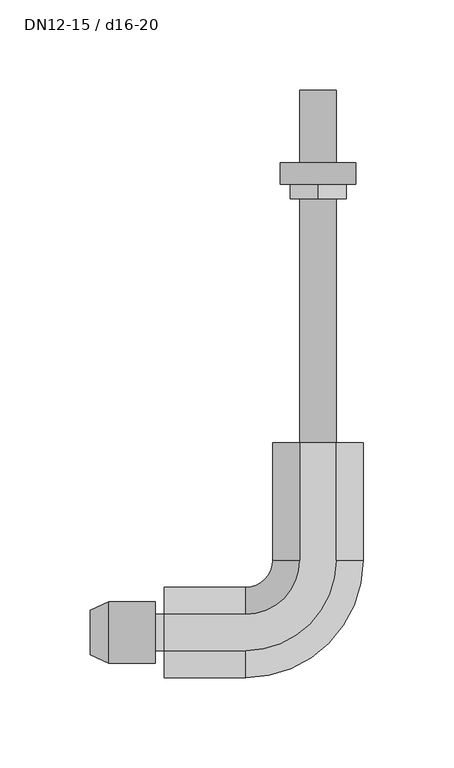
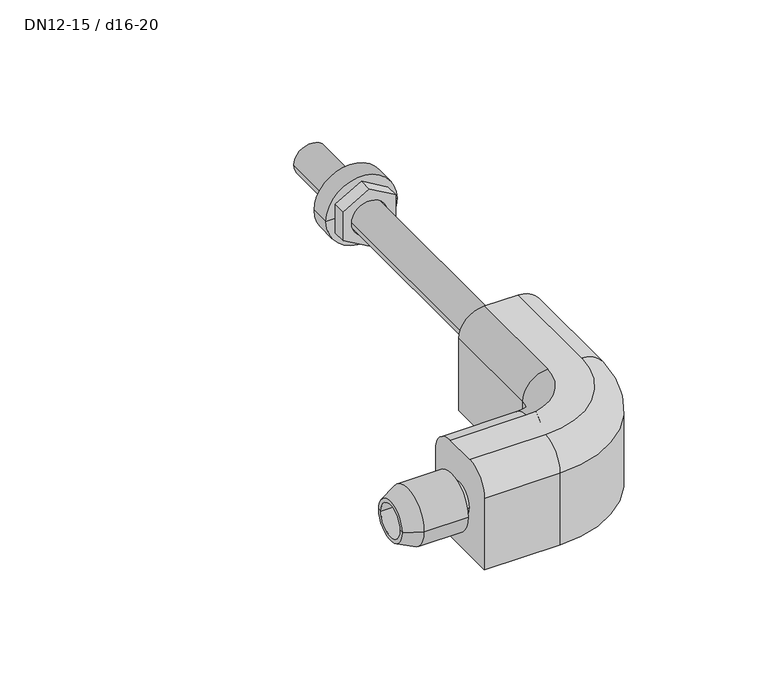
"""IFC4 building model written with IfcOpenShell, lengths in millimetres: pipe fitting geometry, NLRS_50_PIF_UN_PushFit radiatoraansluiting 90° met isolatiebox en schroefaansluiting voor Euroconus_geb : DN12-15 / d16-20."""

from ifc_helpers import new_model, si_unit, point, frame, origin, origin_2d, place, context, project, spatial, polyline, circle_curve, ellipse_curve, trimmed, segment, composite_curve, outline, extrude, source, transform, mapped, element, save
from ifc_brep_helpers import plane_surface, cylinder_surface, revolved_surface, advanced_brep


def dn12_15_d16_20_6858ad53(model_context):
    return source(origin(), model_context, "Body", "SolidModel", [
        advanced_brep(
        [(-90.0, -17.0, 0.0), (-90.0, 17.0, 0.0), (-90.0, 0.0, 0.0), (-115.8135921, -17.0, 0.0), (-115.8135921, 17.0, 0.0), (-126.0, -12.25, 0.0), (-126.0, 12.25, 0.0), (-100.0, -10.0, 0.0), (-100.0, 10.0, 0.0), (-126.0, 10.0, 0.0), (-126.0, -10.0, 0.0), (-100.0, 0.0, 0.0)],
        [
            (0, 1, circle_curve(frame((-90.0, 0.0, 0.0), z_axis=(1.0, 0.0, 0.0), x_axis=(0.0, 1.0, 0.0)), 17.0)),
            (1, 2),
            (2, 0),
            (1, 0, circle_curve(frame((-90.0, 0.0, 0.0), z_axis=(1.0, 0.0, 0.0), x_axis=(0.0, 1.0, 0.0)), 17.0)),
            (3, 4, circle_curve(frame((-115.8135921, 0.0, 0.0), z_axis=(1.0, 0.0, 0.0), x_axis=(0.0, 1.0, 0.0)), 17.0)),
            (4, 1),
            (0, 3),
            (4, 3, circle_curve(frame((-115.8135921, 0.0, 0.0), z_axis=(1.0, 0.0, 0.0), x_axis=(0.0, 1.0, 0.0)), 17.0)),
            (5, 6, circle_curve(frame((-126.0, 0.0, 0.0), z_axis=(1.0, 0.0, 0.0), x_axis=(0.0, 1.0, 0.0)), 12.25)),
            (6, 4),
            (3, 5),
            (6, 5, circle_curve(frame((-126.0, 0.0, 0.0), z_axis=(1.0, 0.0, 0.0), x_axis=(0.0, 1.0, 0.0)), 12.25)),
            (7, 8, circle_curve(frame((-100.0, 0.0, 0.0), z_axis=(1.0, 0.0, 0.0), x_axis=(0.0, 1.0, 0.0)), 10.0)),
            (8, 9),
            (9, 10, circle_curve(frame((-126.0, 0.0, 0.0), z_axis=(-1.0, 0.0, 0.0), x_axis=(0.0, 1.0, 0.0)), 10.0)),
            (10, 7),
            (8, 7, circle_curve(frame((-100.0, 0.0, 0.0), z_axis=(1.0, 0.0, 0.0), x_axis=(0.0, 1.0, 0.0)), 10.0)),
            (10, 9, circle_curve(frame((-126.0, 0.0, 0.0), z_axis=(-1.0, 0.0, 0.0), x_axis=(0.0, 1.0, 0.0)), 10.0)),
            (11, 8),
            (7, 11),
            (9, 6),
            (5, 10),
        ],
        [
            plane_surface(frame((-90.0, 0.0, 0.0), z_axis=(1.0, 0.0, 0.0), x_axis=(0.0, 1.0, 0.0))),
            cylinder_surface(frame((-136.0, 0.0, 0.0), z_axis=(-1.0, 0.0, 0.0), x_axis=(0.0, 1.0, 0.0)), 17.0),
            revolved_surface(polyline([(-115.8135921, 17.0, 0.0), (-126.0, 12.25, 0.0)]), (-136.0, 0.0, 0.0), (-1.0, 0.0, 0.0)),
            revolved_surface(polyline([(-126.0, 10.0, 0.0), (-100.0, 10.0, 0.0)]), (-136.0, 0.0, 0.0), (-1.0, 0.0, 0.0)),
            plane_surface(frame((-100.0, 0.0, 0.0), z_axis=(-1.0, 0.0, 0.0), x_axis=(0.0, 1.0, 0.0))),
            plane_surface(frame((-126.0, 0.0, 0.0), z_axis=(-1.0, 0.0, 0.0), x_axis=(0.0, 1.0, 0.0))),
        ],
        [
            (0, [[1, 2, 3]]),
            (0, [[4, -3, -2]]),
            (1, [[5, 6, -1, 7]]),
            (1, [[8, -7, -4, -6]]),
            (2, [[9, 10, -5, 11]]),
            (2, [[12, -11, -8, -10]]),
            (3, [[13, 14, 15, 16]]),
            (3, [[17, -16, 18, -14]]),
            (4, [[19, -13, 20]]),
            (4, [[-20, -17, -19]]),
            (5, [[-15, 21, -9, 22]]),
            (5, [[-18, -22, -12, -21]]),
        ],
    ),
        extrude(outline(polyline([(-8.9489292, -15.5), (-17.8978583, 0.0), (-8.9489292, 15.5), (8.9489292, 15.5), (17.8978583, 0.0), (8.9489292, -15.5), (-8.9489292, -15.5)]), holes=[composite_curve([segment(trimmed(circle_curve(origin_2d(), 10.5), [point((0.0, -10.5))], [point((0.0, 10.5))], True, "CARTESIAN"), True, "CONTINUOUS"), segment(trimmed(circle_curve(origin_2d(), 10.5), [point((0.0, 10.5))], [point((0.0, -10.5))], True, "CARTESIAN"), True, "CONTINUOUS")], self_intersect=False)]), frame((0.0, 240.0, 0.0), z_axis=(0.0, 1.0, 0.0), x_axis=(0.0, 0.0, 1.0)), (0.0, 0.0, 1.0), 8.0),
        advanced_brep(
        [(-21.0, 248.0, 0.0), (21.0, 248.0, 0.0), (10.5, 248.0, 0.0), (-10.5, 248.0, 0.0), (-21.0, 260.0, 0.0), (21.0, 260.0, 0.0), (-10.5, 260.0, 0.0), (10.5, 260.0, 0.0)],
        [
            (0, 1, circle_curve(frame((0.0, 248.0, 0.0), z_axis=(0.0, -1.0, 0.0), x_axis=(1.0, 0.0, 0.0)), 21.0)),
            (1, 2),
            (2, 3, circle_curve(frame((0.0, 248.0, 0.0), z_axis=(0.0, 1.0, 0.0), x_axis=(-1.0, 0.0, 0.0)), 10.5)),
            (3, 0),
            (1, 0, circle_curve(frame((0.0, 248.0, 0.0), z_axis=(0.0, -1.0, 0.0), x_axis=(1.0, 0.0, 0.0)), 21.0)),
            (3, 2, circle_curve(frame((0.0, 248.0, 0.0), z_axis=(0.0, 1.0, 0.0), x_axis=(-1.0, 0.0, 0.0)), 10.5)),
            (0, 4),
            (4, 5, circle_curve(frame((0.0, 260.0, 0.0), z_axis=(0.0, -1.0, 0.0), x_axis=(1.0, 0.0, 0.0)), 21.0)),
            (5, 1),
            (5, 4, circle_curve(frame((0.0, 260.0, 0.0), z_axis=(0.0, -1.0, 0.0), x_axis=(1.0, 0.0, 0.0)), 21.0)),
            (4, 6),
            (6, 7, circle_curve(frame((0.0, 260.0, 0.0), z_axis=(0.0, -1.0, 0.0), x_axis=(-1.0, 0.0, 0.0)), 10.5)),
            (7, 5),
            (7, 6, circle_curve(frame((0.0, 260.0, 0.0), z_axis=(0.0, -1.0, 0.0), x_axis=(-1.0, 0.0, 0.0)), 10.5)),
            (6, 3),
            (2, 7),
        ],
        [
            plane_surface(frame((0.0, 248.0, 0.0), z_axis=(0.0, -1.0, 0.0), x_axis=(1.0, 0.0, 0.0))),
            cylinder_surface(frame((0.0, -1752.0, 0.0), z_axis=(0.0, 1.0, 0.0), x_axis=(1.0, 0.0, 0.0)), 21.0),
            plane_surface(frame((0.0, 260.0, 0.0), z_axis=(0.0, 1.0, 0.0), x_axis=(1.0, 0.0, 0.0))),
            revolved_surface(polyline([(-10.5, 260.0, 0.0), (-10.5, 248.0, 0.0)]), (0.0, 248.0, 0.0), (0.0, 1.0, 0.0)),
        ],
        [
            (0, [[1, 2, 3, 4]]),
            (0, [[5, -4, 6, -2]]),
            (1, [[-1, 7, 8, 9]]),
            (1, [[-5, -9, 10, -7]]),
            (2, [[-8, 11, 12, 13]]),
            (2, [[-10, -13, 14, -11]]),
            (3, [[15, -3, 16, -12]]),
            (3, [[-15, -14, -16, -6]]),
        ],
    ),
        advanced_brep(
        [(10.0, 105.0, 30.0), (25.0, 105.0, 15.0), (25.0, 105.0, -30.0), (-25.0, 105.0, -30.0), (-25.0, 105.0, 15.0), (-10.0, 105.0, 30.0), (10.0, 40.0, 30.0), (25.0, 40.0, 15.0), (25.0, 40.0, -30.0), (-40.0, -25.0, -30.0), (-85.0, -25.0, -30.0), (-85.0, 25.0, -30.0), (-40.0, 25.0, -30.0), (-25.0, 40.0, -30.0), (-25.0, 40.0, 15.0), (-10.0, 40.0, 30.0), (-40.0, 10.0, 30.0), (-85.0, 10.0, 30.0), (-85.0, -10.0, 30.0), (-40.0, -10.0, 30.0), (-40.0, -25.0, 15.0), (-40.0, 25.0, 15.0), (-85.0, 25.0, 15.0), (-85.0, -25.0, 15.0)],
        [
            (0, 1, circle_curve(frame((10.0, 105.0, 15.0), z_axis=(0.0, 1.0, 0.0), x_axis=(1.0, 0.0, 0.0)), 15.0)),
            (1, 2),
            (2, 3),
            (3, 4),
            (4, 5, circle_curve(frame((-10.0, 105.0, 15.0), z_axis=(0.0, 1.0, 0.0), x_axis=(1.0, 0.0, 0.0)), 15.0)),
            (5, 0),
            (0, 6),
            (6, 7, circle_curve(frame((10.0, 40.0, 15.0), z_axis=(0.0, 1.0, 0.0), x_axis=(1.0, 0.0, 0.0)), 15.0)),
            (7, 1),
            (7, 8),
            (8, 2),
            (8, 9, circle_curve(frame((-40.0, 40.0, -30.0), z_axis=(0.0, 0.0, -1.0), x_axis=(1.0, 0.0, 0.0)), 65.0)),
            (9, 10),
            (10, 11),
            (11, 12),
            (12, 13, circle_curve(frame((-40.0, 40.0, -30.0), z_axis=(0.0, 0.0, 1.0), x_axis=(1.0, 0.0, 0.0)), 15.0)),
            (13, 3),
            (13, 14),
            (14, 4),
            (14, 15, circle_curve(frame((-10.0, 40.0, 15.0), z_axis=(0.0, 1.0, 0.0), x_axis=(1.0, 0.0, 0.0)), 15.0)),
            (15, 5),
            (15, 16, circle_curve(frame((-40.0, 40.0, 30.0), z_axis=(0.0, 0.0, -1.0), x_axis=(1.0, 0.0, 0.0)), 30.0)),
            (16, 17),
            (17, 18),
            (18, 19),
            (19, 6, circle_curve(frame((-40.0, 40.0, 30.0), z_axis=(0.0, 0.0, 1.0), x_axis=(1.0, 0.0, 0.0)), 50.0)),
            (20, 7, circle_curve(frame((-40.0, 40.0, 15.0), z_axis=(0.0, 0.0, 1.0), x_axis=(1.0, 0.0, 0.0)), 65.0)),
            (19, 20, circle_curve(frame((-40.0, -10.0, 15.0), z_axis=(1.0, 0.0, 0.0), x_axis=(0.0, -1.0, 0.0)), 15.0)),
            (20, 9),
            (21, 14, circle_curve(frame((-40.0, 40.0, 15.0), z_axis=(0.0, 0.0, 1.0), x_axis=(1.0, 0.0, 0.0)), 15.0)),
            (12, 21),
            (21, 16, circle_curve(frame((-40.0, 10.0, 15.0), z_axis=(1.0, 0.0, 0.0), x_axis=(0.0, -1.0, 0.0)), 15.0)),
            (17, 22, circle_curve(frame((-85.0, 10.0, 15.0), z_axis=(-1.0, 0.0, 0.0), x_axis=(0.0, -1.0, 0.0)), 15.0)),
            (22, 11),
            (10, 23),
            (23, 18, circle_curve(frame((-85.0, -10.0, 15.0), z_axis=(-1.0, 0.0, 0.0), x_axis=(0.0, -1.0, 0.0)), 15.0)),
            (23, 20),
            (22, 21),
        ],
        [
            plane_surface(frame((0.0, 105.0, 0.0), z_axis=(0.0, 1.0, 0.0), x_axis=(0.0, 0.0, 1.0))),
            cylinder_surface(frame((10.0, 105.0, 15.0), z_axis=(0.0, 1.0, 0.0), x_axis=(1.0, 0.0, 0.0)), 15.0),
            plane_surface(frame((25.0, 105.0, 15.0), z_axis=(1.0, 0.0, 0.0), x_axis=(0.0, -1.0, 0.0))),
            plane_surface(frame((25.0, 105.0, -30.0), z_axis=(0.0, 0.0, -1.0), x_axis=(0.0, -1.0, 0.0))),
            plane_surface(frame((-25.0, 105.0, -30.0), z_axis=(-1.0, 0.0, 0.0), x_axis=(0.0, -1.0, 0.0))),
            cylinder_surface(frame((-10.0, 105.0, 15.0), z_axis=(0.0, 1.0, 0.0), x_axis=(1.0, 0.0, 0.0)), 15.0),
            plane_surface(frame((-10.0, 105.0, 30.0), z_axis=(0.0, 0.0, 1.0), x_axis=(0.0, -1.0, 0.0))),
            revolved_surface(trimmed(ellipse_curve(frame((10.0, 40.0, 15.0), z_axis=(0.0, 1.0, 0.0), x_axis=(1.0, 0.0, 0.0)), 15.0, 15.0), [point((10.0, 40.0, 30.0))], [point((25.0, 40.0, 15.0))], True, "CARTESIAN"), (-40.0, 40.0, 0.0), (0.0, 0.0, -1.0)),
            cylinder_surface(frame((-40.0, 40.0, 0.0), z_axis=(0.0, 0.0, -1.0), x_axis=(1.0, 0.0, 0.0)), 65.0),
            revolved_surface(polyline([(-25.0, 40.0, -30.0), (-25.0, 40.0, 15.0)]), (-40.0, 40.0, 0.0), (0.0, 0.0, -1.0)),
            revolved_surface(trimmed(ellipse_curve(frame((-10.0, 40.0, 15.0), z_axis=(0.0, 1.0, 0.0), x_axis=(1.0, 0.0, 0.0)), 15.0, 15.0), [point((-25.0, 40.0, 15.0))], [point((-10.0, 40.0, 30.0))], True, "CARTESIAN"), (-40.0, 40.0, 0.0), (0.0, 0.0, -1.0)),
            plane_surface(frame((-85.0, 0.0, 0.0), z_axis=(-1.0, 0.0, 0.0), x_axis=(0.0, 0.0, 1.0))),
            cylinder_surface(frame((-40.0, -10.0, 15.0), z_axis=(1.0, 0.0, 0.0), x_axis=(0.0, -1.0, 0.0)), 15.0),
            plane_surface(frame((-40.0, -25.0, 15.0), z_axis=(0.0, -1.0, 0.0), x_axis=(-1.0, 0.0, 0.0))),
            plane_surface(frame((-40.0, 25.0, -30.0), z_axis=(0.0, 1.0, 0.0), x_axis=(-1.0, 0.0, 0.0))),
            cylinder_surface(frame((-40.0, 10.0, 15.0), z_axis=(1.0, 0.0, 0.0), x_axis=(0.0, -1.0, 0.0)), 15.0),
        ],
        [
            (0, [[1, 2, 3, 4, 5, 6]]),
            (1, [[-1, 7, 8, 9]]),
            (2, [[-2, -9, 10, 11]]),
            (3, [[-3, -11, 12, 13, 14, 15, 16, 17]]),
            (4, [[-4, -17, 18, 19]]),
            (5, [[-5, -19, 20, 21]]),
            (6, [[-6, -21, 22, 23, 24, 25, 26, -7]]),
            (7, [[27, -8, -26, 28]]),
            (8, [[-12, -10, -27, 29]]),
            (9, [[30, -18, -16, 31]]),
            (10, [[-22, -20, -30, 32]]),
            (11, [[-24, 33, 34, -14, 35, 36]]),
            (12, [[-28, -25, -36, 37]]),
            (13, [[-29, -37, -35, -13]]),
            (14, [[-31, -15, -34, 38]]),
            (15, [[-32, -38, -33, -23]]),
        ],
    ),
        advanced_brep(
        [(-10.0, 300.0, 0.0), (10.0, 300.0, 0.0), (-10.0, 61.5, 0.0), (10.0, 61.5, 0.0), (-61.5, -10.0, 0.0), (-61.5, 10.0, 0.0), (-90.0, 10.0, 0.0), (-90.0, -10.0, 0.0)],
        [
            (0, 1, circle_curve(frame((0.0, 300.0, 0.0), z_axis=(0.0, 1.0, 0.0), x_axis=(1.0, 0.0, 0.0)), 10.0)),
            (1, 0, circle_curve(frame((0.0, 300.0, 0.0), z_axis=(0.0, 1.0, 0.0), x_axis=(1.0, 0.0, 0.0)), 10.0)),
            (0, 2),
            (2, 3, circle_curve(frame((0.0, 61.5, 0.0), z_axis=(0.0, 1.0, 0.0), x_axis=(1.0, 0.0, 0.0)), 10.0)),
            (3, 1),
            (3, 2, circle_curve(frame((0.0, 61.5, 0.0), z_axis=(0.0, 1.0, 0.0), x_axis=(1.0, 0.0, 0.0)), 10.0)),
            (4, 3, circle_curve(frame((-61.5, 61.5, 0.0), z_axis=(0.0, 0.0, 1.0), x_axis=(1.0, 0.0, 0.0)), 71.5)),
            (2, 5, circle_curve(frame((-61.5, 61.5, 0.0), z_axis=(0.0, 0.0, -1.0), x_axis=(1.0, 0.0, 0.0)), 51.5)),
            (5, 4, circle_curve(frame((-61.5, 0.0, 0.0), z_axis=(1.0, 0.0, 0.0), x_axis=(0.0, -1.0, 0.0)), 10.0)),
            (4, 5, circle_curve(frame((-61.5, 0.0, 0.0), z_axis=(1.0, 0.0, 0.0), x_axis=(0.0, -1.0, 0.0)), 10.0)),
            (6, 7, circle_curve(frame((-90.0, 0.0, 0.0), z_axis=(-1.0, 0.0, 0.0), x_axis=(0.0, -1.0, 0.0)), 10.0)),
            (7, 6, circle_curve(frame((-90.0, 0.0, 0.0), z_axis=(-1.0, 0.0, 0.0), x_axis=(0.0, -1.0, 0.0)), 10.0)),
            (5, 6),
            (7, 4),
        ],
        [
            plane_surface(frame((0.0, 300.0, 0.0), z_axis=(0.0, 1.0, 0.0), x_axis=(0.0, 0.0, 1.0))),
            cylinder_surface(frame((0.0, 300.0, 0.0), z_axis=(0.0, 1.0, 0.0), x_axis=(1.0, 0.0, 0.0)), 10.0),
            revolved_surface(trimmed(ellipse_curve(frame((0.0, 61.5, 0.0), z_axis=(0.0, 1.0, 0.0), x_axis=(1.0, 0.0, 0.0)), 10.0, 10.0), [point((-10.0, 61.5, 0.0))], [point((10.0, 61.5, 0.0))], True, "CARTESIAN"), (-61.5, 61.5, 0.0), (0.0, 0.0, -1.0)),
            revolved_surface(trimmed(ellipse_curve(frame((0.0, 61.5, 0.0), z_axis=(0.0, 1.0, 0.0), x_axis=(1.0, 0.0, 0.0)), 10.0, 10.0), [point((10.0, 61.5, 0.0))], [point((-10.0, 61.5, 0.0))], True, "CARTESIAN"), (-61.5, 61.5, 0.0), (0.0, 0.0, -1.0)),
            plane_surface(frame((-90.0, 0.0, 0.0), z_axis=(-1.0, 0.0, 0.0), x_axis=(0.0, 0.0, 1.0))),
            cylinder_surface(frame((-61.5, 0.0, 0.0), z_axis=(1.0, 0.0, 0.0), x_axis=(0.0, -1.0, 0.0)), 10.0),
        ],
        [
            (0, [[1, 2]]),
            (1, [[-1, 3, 4, 5]]),
            (1, [[-2, -5, 6, -3]]),
            (2, [[7, -4, 8, 9]]),
            (3, [[-8, -6, -7, 10]]),
            (4, [[11, 12]]),
            (5, [[-9, 13, -12, 14]]),
            (5, [[-10, -14, -11, -13]]),
        ],
    ),
    ])


if __name__ == "__main__":
    model = new_model("IFC4")
    model_context = context("Model", 3, world=origin())
    ifc_project = project(units=[si_unit("LENGTHUNIT", "METRE", prefix="MILLI")], contexts=[model_context])
    site = spatial("IfcSite", under=ifc_project)
    building = spatial("IfcBuilding", under=site)
    placement = place(None, origin())
    dn12_15_d16_20_shape = dn12_15_d16_20_6858ad53(model_context)
    element("IfcPipeFitting", 1, ObjectType="NLRS_50_PIF_UN_PushFit radiatoraansluiting 90° met isolatiebox en schroefaansluiting voor Euroconus_geb : DN12-15 / d16-20", at=placement, inside=building, context=model_context, shape_type="MappedRepresentation", body=[
        mapped(dn12_15_d16_20_shape, transform((0.0, 0.0, 0.0), x_axis=(1.0, 0.0, 0.0), y_axis=(0.0, 1.0, 0.0), z_axis=(0.0, 0.0, 1.0))),
    ])
    save(model, "model.ifc")
